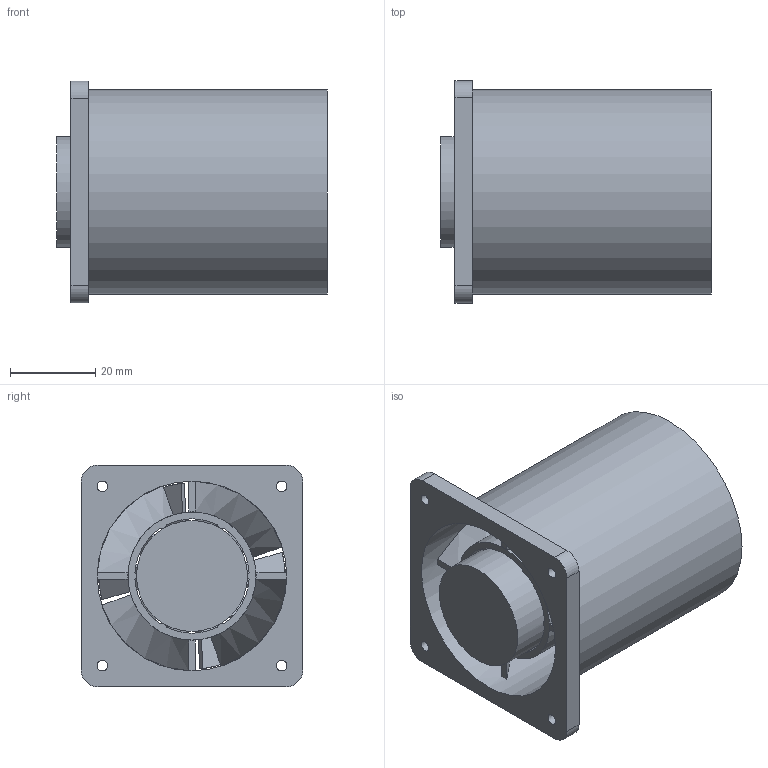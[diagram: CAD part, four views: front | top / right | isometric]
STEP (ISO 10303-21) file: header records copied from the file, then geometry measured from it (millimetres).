
FILE_DESCRIPTION(/* description */ (''),/* implementation_level */ '2;1');
FILE_NAME(/* name */ 'Fan D483P-012024KM-4.stp',/* time_stamp */ '2021-08-17T10:36:46+02:00',/* author */ (''),/* organization */ (''),/* preprocessor_version */ 'ST-DEVELOPER v16.7',/* originating_system */ 'SIEMENS PLM Software NX 1946',/* authorisation */ '');
FILE_SCHEMA (('AUTOMOTIVE_DESIGN { 1 0 10303 214 3 1 1 1 }'));
Length unit declared in the file: millimetre
Products named in the file (1): MIG_4457_1-Fan D483P-012024KM-4 _-_
Bounding box: 63.3 x 52 x 52 mm (x, y, z)
Volume: 53874.1 mm3; surface area: 36880 mm2
Topology: 1 solids, 1 shells, 132 faces, 379 edges, 248 vertices
Faces by surface type: plane 64, cylinder 56, bspline 12
Full cylindrical faces by diameter (mm): 2.5 x4, 4 x2, 6 x2, 20 x1, 26 x1, 30 x1, 44.4 x1, 48 x1
Entity records: 4431 total; most frequent: CARTESIAN_POINT 990, DIRECTION 768, ORIENTED_EDGE 704, EDGE_CURVE 352, AXIS2_PLACEMENT_3D 336, VERTEX_POINT 236, EDGE_LOOP 172, ADVANCED_FACE 131
